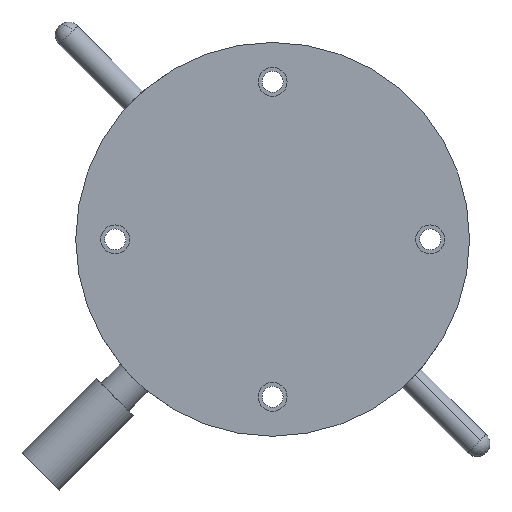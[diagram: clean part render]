
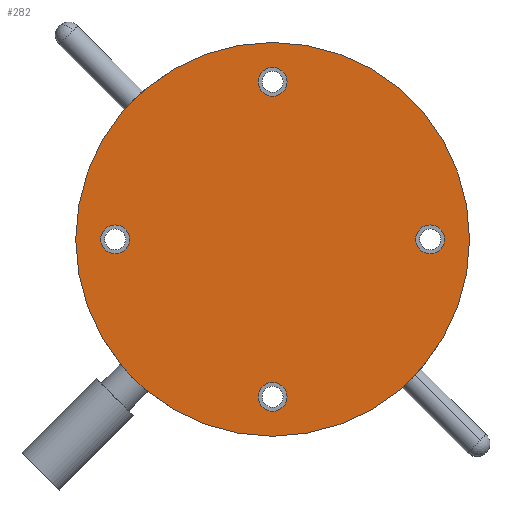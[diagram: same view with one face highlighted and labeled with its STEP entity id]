
A CAD part, front view. The second image highlights one B-rep face of the part: STEP entity #282.
In plain terms, the highlighted planar face has unit normal (0, -1, 0).
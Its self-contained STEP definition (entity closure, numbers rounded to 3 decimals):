
#184 = EDGE_CURVE ( 'NONE', #237, #238, #1064, .T. ) ;
#233 = EDGE_CURVE ( 'NONE', #234, #235, #1203, .T. ) ;
#234 = VERTEX_POINT ( 'NONE', #1199 ) ;
#235 = VERTEX_POINT ( 'NONE', #1198 ) ;
#237 = VERTEX_POINT ( 'NONE', #1197 ) ;
#238 = VERTEX_POINT ( 'NONE', #1196 ) ;
#267 = ORIENTED_EDGE ( 'NONE', *, *, #2656, .T. ) ;
#268 = EDGE_LOOP ( 'NONE', ( #269, #271 ) ) ;
#269 = ORIENTED_EDGE ( 'NONE', *, *, #270, .T. ) ;
#270 = EDGE_CURVE ( 'NONE', #235, #234, #1209, .T. ) ;
#271 = ORIENTED_EDGE ( 'NONE', *, *, #233, .T. ) ;
#272 = EDGE_LOOP ( 'NONE', ( #273, #275 ) ) ;
#273 = ORIENTED_EDGE ( 'NONE', *, *, #274, .T. ) ;
#274 = EDGE_CURVE ( 'NONE', #238, #237, #1267, .T. ) ;
#275 = ORIENTED_EDGE ( 'NONE', *, *, #184, .T. ) ;
#282 = ADVANCED_FACE ( 'NONE', ( #1260, #1255, #1254, #1253, #1252 ), #1251, .F. ) ;
#283 = EDGE_LOOP ( 'NONE', ( #284, #285 ) ) ;
#284 = ORIENTED_EDGE ( 'NONE', *, *, #2735, .F. ) ;
#285 = ORIENTED_EDGE ( 'NONE', *, *, #2723, .F. ) ;
#286 = EDGE_LOOP ( 'NONE', ( #287, #2767 ) ) ;
#287 = ORIENTED_EDGE ( 'NONE', *, *, #2768, .T. ) ;
#1061 = DIRECTION ( 'NONE',  ( 0., 0., 1. ) ) ;
#1062 = DIRECTION ( 'NONE',  ( 0., 1., 0. ) ) ;
#1063 = AXIS2_PLACEMENT_3D ( 'NONE', #1070, #1062, #1061 ) ;
#1064 = CIRCLE ( 'NONE', #1063, 1.1 ) ;
#1070 = CARTESIAN_POINT ( 'NONE',  ( 0., 0., -12. ) ) ;
#1146 = CARTESIAN_POINT ( 'NONE',  ( 0., 0., 12. ) ) ;
#1196 = CARTESIAN_POINT ( 'NONE',  ( 0., 0., -10.9 ) ) ;
#1197 = CARTESIAN_POINT ( 'NONE',  ( 0., 0., -13.1 ) ) ;
#1198 = CARTESIAN_POINT ( 'NONE',  ( 0., 0., 13.1 ) ) ;
#1199 = CARTESIAN_POINT ( 'NONE',  ( 0., 0., 10.9 ) ) ;
#1200 = DIRECTION ( 'NONE',  ( 0., 0., 1. ) ) ;
#1201 = DIRECTION ( 'NONE',  ( 0., 1., 0. ) ) ;
#1202 = AXIS2_PLACEMENT_3D ( 'NONE', #1146, #1201, #1200 ) ;
#1203 = CIRCLE ( 'NONE', #1202, 1.1 ) ;
#1209 = CIRCLE ( 'NONE', #1271, 1.1 ) ;
#1247 = DIRECTION ( 'NONE',  ( 0., 0., 1. ) ) ;
#1248 = DIRECTION ( 'NONE',  ( 0., 1., 0. ) ) ;
#1249 = CARTESIAN_POINT ( 'NONE',  ( 0., 0., 0. ) ) ;
#1250 = AXIS2_PLACEMENT_3D ( 'NONE', #1249, #1248, #1247 ) ;
#1251 = PLANE ( 'NONE',  #1250 ) ;
#1252 = FACE_BOUND ( 'NONE', #272, .T. ) ;
#1253 = FACE_BOUND ( 'NONE', #268, .T. ) ;
#1254 = FACE_BOUND ( 'NONE', #2766, .T. ) ;
#1255 = FACE_BOUND ( 'NONE', #286, .T. ) ;
#1260 = FACE_OUTER_BOUND ( 'NONE', #283, .T. ) ;
#1263 = DIRECTION ( 'NONE',  ( 0., 0., 1. ) ) ;
#1264 = DIRECTION ( 'NONE',  ( 0., 1., 0. ) ) ;
#1265 = CARTESIAN_POINT ( 'NONE',  ( 0., 0., -12. ) ) ;
#1266 = AXIS2_PLACEMENT_3D ( 'NONE', #1265, #1264, #1263 ) ;
#1267 = CIRCLE ( 'NONE', #1266, 1.1 ) ;
#1268 = DIRECTION ( 'NONE',  ( 0., 0., 1. ) ) ;
#1269 = DIRECTION ( 'NONE',  ( 0., 1., 0. ) ) ;
#1270 = CARTESIAN_POINT ( 'NONE',  ( 0., 0., 12. ) ) ;
#1271 = AXIS2_PLACEMENT_3D ( 'NONE', #1270, #1269, #1268 ) ;
#2024 = CARTESIAN_POINT ( 'NONE',  ( 12., 0., 1.1 ) ) ;
#2026 = DIRECTION ( 'NONE',  ( 0., 0., 1. ) ) ;
#2027 = DIRECTION ( 'NONE',  ( 0., 1., 0. ) ) ;
#2028 = CARTESIAN_POINT ( 'NONE',  ( 12., 0., 0. ) ) ;
#2029 = AXIS2_PLACEMENT_3D ( 'NONE', #2028, #2027, #2026 ) ;
#2030 = CIRCLE ( 'NONE', #2029, 1.1 ) ;
#2031 = CARTESIAN_POINT ( 'NONE',  ( 12., 0., -1.1 ) ) ;
#2051 = DIRECTION ( 'NONE',  ( 0., 0., 1. ) ) ;
#2052 = DIRECTION ( 'NONE',  ( 0., 1., 0. ) ) ;
#2053 = CARTESIAN_POINT ( 'NONE',  ( -12., 0., 0. ) ) ;
#2054 = AXIS2_PLACEMENT_3D ( 'NONE', #2053, #2052, #2051 ) ;
#2055 = CIRCLE ( 'NONE', #2054, 1.1 ) ;
#2066 = CARTESIAN_POINT ( 'NONE',  ( -12., 0., 1.1 ) ) ;
#2067 = CARTESIAN_POINT ( 'NONE',  ( -12., 0., -1.1 ) ) ;
#2174 = CARTESIAN_POINT ( 'NONE',  ( 0., 0., 15. ) ) ;
#2179 = DIRECTION ( 'NONE',  ( 0., 0., 1. ) ) ;
#2180 = DIRECTION ( 'NONE',  ( 0., 1., 0. ) ) ;
#2181 = CARTESIAN_POINT ( 'NONE',  ( 0., 0., 0. ) ) ;
#2182 = AXIS2_PLACEMENT_3D ( 'NONE', #2181, #2180, #2179 ) ;
#2183 = CIRCLE ( 'NONE', #2182, 15. ) ;
#2199 = CARTESIAN_POINT ( 'NONE',  ( 0., 0., -15. ) ) ;
#2224 = AXIS2_PLACEMENT_3D ( 'NONE', #2268, #2267, #2266 ) ;
#2225 = CIRCLE ( 'NONE', #2224, 15. ) ;
#2266 = DIRECTION ( 'NONE',  ( 0., 0., 1. ) ) ;
#2267 = DIRECTION ( 'NONE',  ( 0., 1., 0. ) ) ;
#2268 = CARTESIAN_POINT ( 'NONE',  ( 0., 0., 0. ) ) ;
#2282 = DIRECTION ( 'NONE',  ( 0., 0., 1. ) ) ;
#2283 = DIRECTION ( 'NONE',  ( 0., 1., 0. ) ) ;
#2284 = CARTESIAN_POINT ( 'NONE',  ( -12., 0., 0. ) ) ;
#2285 = AXIS2_PLACEMENT_3D ( 'NONE', #2284, #2283, #2282 ) ;
#2286 = CIRCLE ( 'NONE', #2285, 1.1 ) ;
#2287 = DIRECTION ( 'NONE',  ( 0., 0., 1. ) ) ;
#2288 = DIRECTION ( 'NONE',  ( 0., 1., 0. ) ) ;
#2289 = CARTESIAN_POINT ( 'NONE',  ( 12., 0., 0. ) ) ;
#2290 = AXIS2_PLACEMENT_3D ( 'NONE', #2289, #2288, #2287 ) ;
#2291 = CIRCLE ( 'NONE', #2290, 1.1 ) ;
#2655 = VERTEX_POINT ( 'NONE', #2031 ) ;
#2656 = EDGE_CURVE ( 'NONE', #2655, #2659, #2030, .T. ) ;
#2659 = VERTEX_POINT ( 'NONE', #2024 ) ;
#2666 = VERTEX_POINT ( 'NONE', #2067 ) ;
#2667 = VERTEX_POINT ( 'NONE', #2066 ) ;
#2674 = EDGE_CURVE ( 'NONE', #2666, #2667, #2055, .T. ) ;
#2697 = VERTEX_POINT ( 'NONE', #2174 ) ;
#2718 = VERTEX_POINT ( 'NONE', #2199 ) ;
#2723 = EDGE_CURVE ( 'NONE', #2697, #2718, #2183, .T. ) ;
#2735 = EDGE_CURVE ( 'NONE', #2718, #2697, #2225, .T. ) ;
#2761 = ORIENTED_EDGE ( 'NONE', *, *, #2764, .T. ) ;
#2764 = EDGE_CURVE ( 'NONE', #2659, #2655, #2291, .T. ) ;
#2766 = EDGE_LOOP ( 'NONE', ( #2761, #267 ) ) ;
#2767 = ORIENTED_EDGE ( 'NONE', *, *, #2674, .T. ) ;
#2768 = EDGE_CURVE ( 'NONE', #2667, #2666, #2286, .T. ) ;
